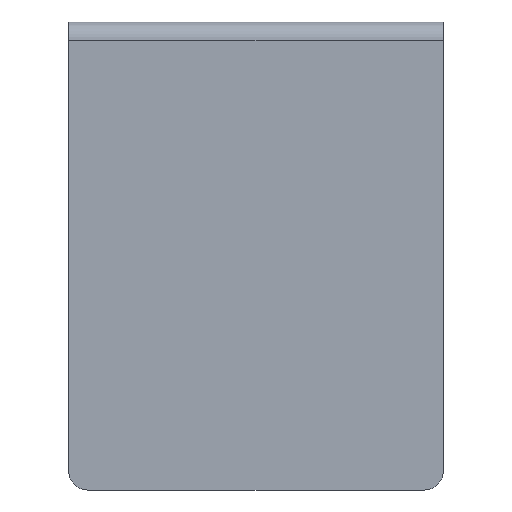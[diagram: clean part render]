
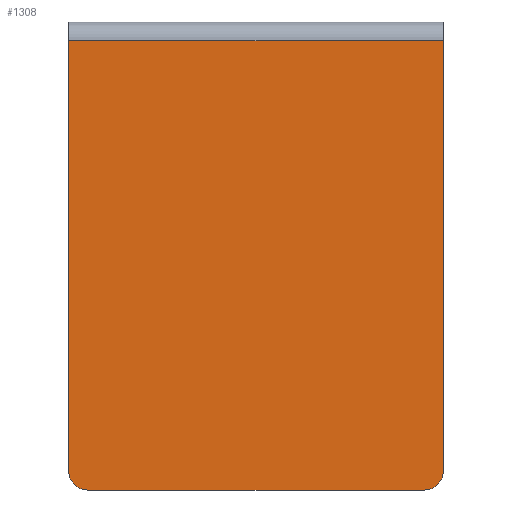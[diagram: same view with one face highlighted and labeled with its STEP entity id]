
A CAD part, front view. The second image highlights one B-rep face of the part: STEP entity #1308.
In plain terms, the highlighted planar face has unit normal (0, -1, 0).
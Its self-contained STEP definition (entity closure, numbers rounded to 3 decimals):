
#118=PLANE('',#1405);
#158=FACE_OUTER_BOUND('',#227,.T.);
#227=EDGE_LOOP('',(#925,#926,#927,#928,#929,#930));
#302=LINE('',#1967,#423);
#307=LINE('',#1982,#428);
#308=LINE('',#1984,#429);
#309=LINE('',#1985,#430);
#423=VECTOR('',#1555,10.);
#428=VECTOR('',#1570,10.);
#429=VECTOR('',#1571,10.);
#430=VECTOR('',#1572,10.);
#541=CIRCLE('',#1399,1.);
#543=CIRCLE('',#1404,1.);
#604=VERTEX_POINT('',#1957);
#605=VERTEX_POINT('',#1959);
#607=VERTEX_POINT('',#1965);
#611=VERTEX_POINT('',#1977);
#612=VERTEX_POINT('',#1981);
#613=VERTEX_POINT('',#1983);
#726=EDGE_CURVE('',#604,#605,#541,.T.);
#730=EDGE_CURVE('',#607,#604,#302,.T.);
#735=EDGE_CURVE('',#611,#607,#543,.T.);
#737=EDGE_CURVE('',#612,#611,#307,.T.);
#738=EDGE_CURVE('',#613,#612,#308,.T.);
#739=EDGE_CURVE('',#613,#605,#309,.T.);
#925=ORIENTED_EDGE('',*,*,#726,.F.);
#926=ORIENTED_EDGE('',*,*,#730,.F.);
#927=ORIENTED_EDGE('',*,*,#735,.F.);
#928=ORIENTED_EDGE('',*,*,#737,.F.);
#929=ORIENTED_EDGE('',*,*,#738,.F.);
#930=ORIENTED_EDGE('',*,*,#739,.T.);
#1308=ADVANCED_FACE('',(#158),#118,.T.);
#1399=AXIS2_PLACEMENT_3D('',#1960,#1548,#1549);
#1404=AXIS2_PLACEMENT_3D('',#1978,#1565,#1566);
#1405=AXIS2_PLACEMENT_3D('',#1980,#1568,#1569);
#1548=DIRECTION('center_axis',(0.,1.,0.));
#1549=DIRECTION('ref_axis',(-0.707,0.,-0.707));
#1555=DIRECTION('',(-1.,0.,0.));
#1565=DIRECTION('center_axis',(0.,1.,0.));
#1566=DIRECTION('ref_axis',(0.707,0.,-0.707));
#1568=DIRECTION('center_axis',(0.,-1.,0.));
#1569=DIRECTION('ref_axis',(0.,0.,-1.));
#1570=DIRECTION('',(0.,0.,-1.));
#1571=DIRECTION('',(1.,0.,0.));
#1572=DIRECTION('',(0.,0.,-1.));
#1957=CARTESIAN_POINT('',(-9.,-15.,-20.));
#1959=CARTESIAN_POINT('',(-10.,-15.,-19.));
#1960=CARTESIAN_POINT('Origin',(-9.,-15.,-19.));
#1965=CARTESIAN_POINT('',(9.,-15.,-20.));
#1967=CARTESIAN_POINT('',(10.,-15.,-20.));
#1977=CARTESIAN_POINT('',(10.,-15.,-19.));
#1978=CARTESIAN_POINT('Origin',(9.,-15.,-19.));
#1980=CARTESIAN_POINT('Origin',(0.,-15.,2.5));
#1981=CARTESIAN_POINT('',(10.,-15.,4.));
#1982=CARTESIAN_POINT('',(10.,-15.,0.));
#1983=CARTESIAN_POINT('',(-10.,-15.,4.));
#1984=CARTESIAN_POINT('',(0.,-15.,4.));
#1985=CARTESIAN_POINT('',(-10.,-15.,5.));
